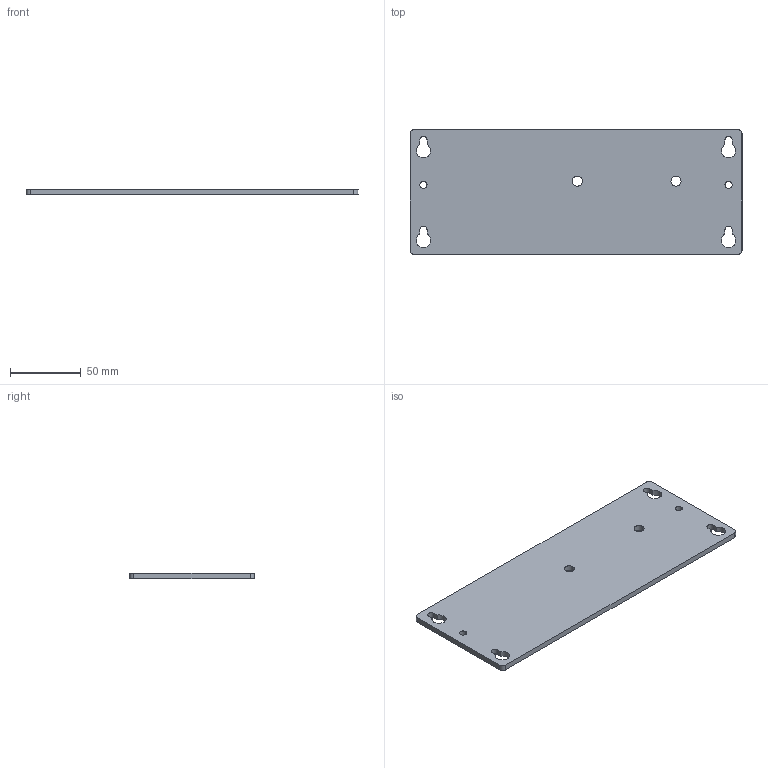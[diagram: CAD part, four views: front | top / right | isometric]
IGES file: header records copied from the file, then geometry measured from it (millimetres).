
Start section:  PTC IGES file: panel_mount_4_slot.igs
Global section: file name: panel_mount_4_slot.igs; native system: Pro/ENGINEER by Parametric Technology Corporation; preprocessor: 2006080; author: chrisj; organization: Unknown; date: 070201.095253; units: inch
Bounding box: 234.95 x 88.14 x 4 mm (x, y, z)
Surface area: 43845.1 mm2 (no closed solid volume)
Topology: 0 solids, 0 shells, 34 faces, 192 edges, 192 vertices
Faces by surface type: revolution 20, bspline 14
